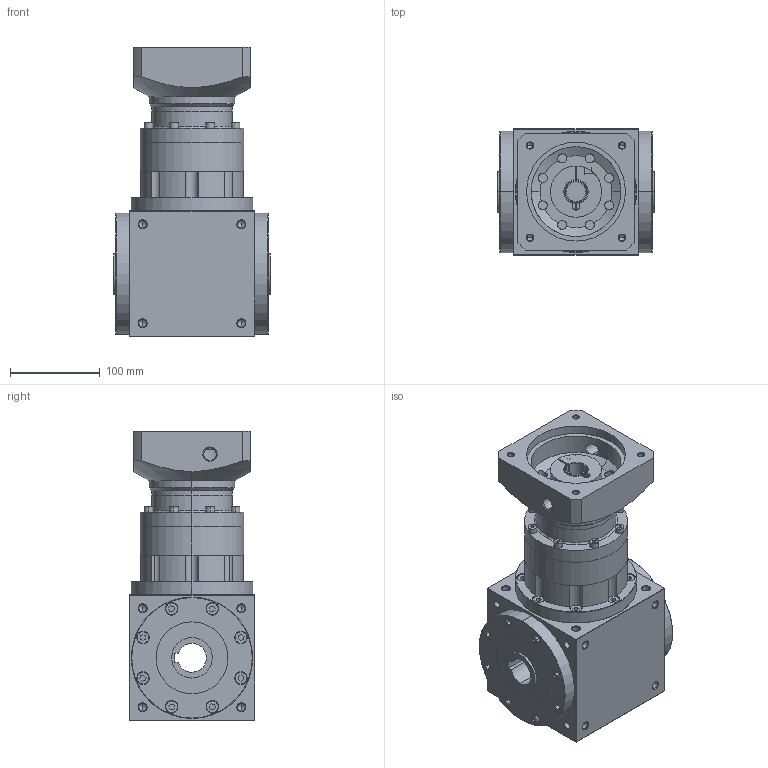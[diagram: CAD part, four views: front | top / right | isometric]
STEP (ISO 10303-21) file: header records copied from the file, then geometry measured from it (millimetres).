
FILE_DESCRIPTION (( 'STEP AP203' ), '1' );
FILE_NAME ('AT140-FH-L3-22-110-145M8.STEP', '2025-08-15T09:27:38', ( 'Windows User' ), ( 'P R C' ), 'SwSTEP 2.0', 'SolidWorks 2016', '' );
FILE_SCHEMA (( 'CONFIG_CONTROL_DESIGN' ));
Length unit declared in the file: millimetre
Products named in the file (8): AT140-单级齿圈; AT140-双级齿圈; AT140-输入法兰-F-110-M8-145; 输入胀套-27; 输入轴套-24-22; AT140-FH-L3-22-110-145M8; AT140-蛌褒眊极-謂怀堤; AT140-蛌倰怀堤楊擘
Assembly tree (7 placements, depth 2):
  AT140-FH-L3-22-110-145M8
    AT140-蛌褒眊极-謂怀堤
    AT140-蛌倰怀堤楊擘
    AT140-单级齿圈
    AT140-双级齿圈
    AT140-输入法兰-F-110-M8-145
    输入胀套-27
    输入轴套-24-22
Bounding box: 174 x 140 x 322 mm (x, y, z)
Volume: 3650559.5 mm3; surface area: 482698.5 mm2
Topology: 7 solids, 19 shells, 1654 faces, 4190 edges, 2650 vertices
Faces by surface type: plane 891, cylinder 377, cone 236, bspline 150
Entity records: 56537 total; most frequent: CARTESIAN_POINT 17215, ORIENTED_EDGE 8196, DIRECTION 7434, EDGE_CURVE 4098, VECTOR 2762, LINE 2762, VERTEX_POINT 2650, AXIS2_PLACEMENT_3D 2336
